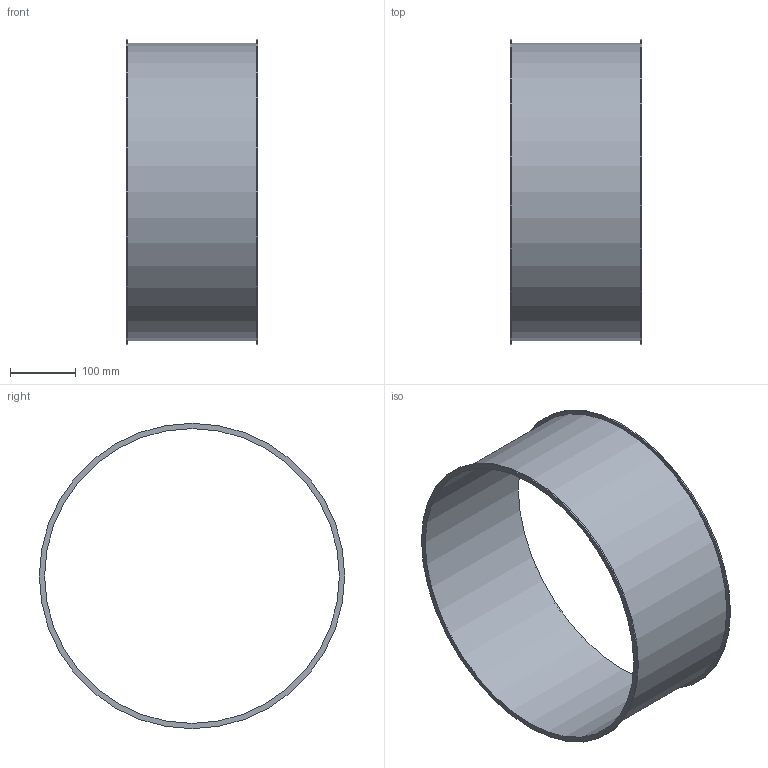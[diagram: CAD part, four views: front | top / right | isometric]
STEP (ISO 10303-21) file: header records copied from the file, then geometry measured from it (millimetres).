
FILE_DESCRIPTION((''),'2;1');
FILE_NAME('U:\Wolfgang\Marcel-3D\fertig\Kapitel 1\4521004.stp','2010-05-31T12:37:33',('TK2'),(''),'Autodesk Inventor 2010','Autodesk Inventor 2010','');
FILE_SCHEMA(('AUTOMOTIVE_DESIGN { 1 0 10303 214 1 1 1 1 }'));
Length unit declared in the file: millimetre
Products named in the file (1): 4521004
Bounding box: 200 x 464 x 464 mm (x, y, z)
Volume: 600019.1 mm3; surface area: 605824.7 mm2
Topology: 1 solids, 1 shells, 8 faces, 12 edges, 8 vertices
Faces by surface type: cylinder 4, plane 4
Full cylindrical faces by diameter (mm): 448 x1, 452 x1, 464 x2
Entity records: 194 total; most frequent: DIRECTION 34, CARTESIAN_POINT 25, AXIS2_PLACEMENT_3D 17, ORIENTED_EDGE 16, EDGE_LOOP 16, VERTEX_POINT 8, CIRCLE 8, EDGE_CURVE 8
